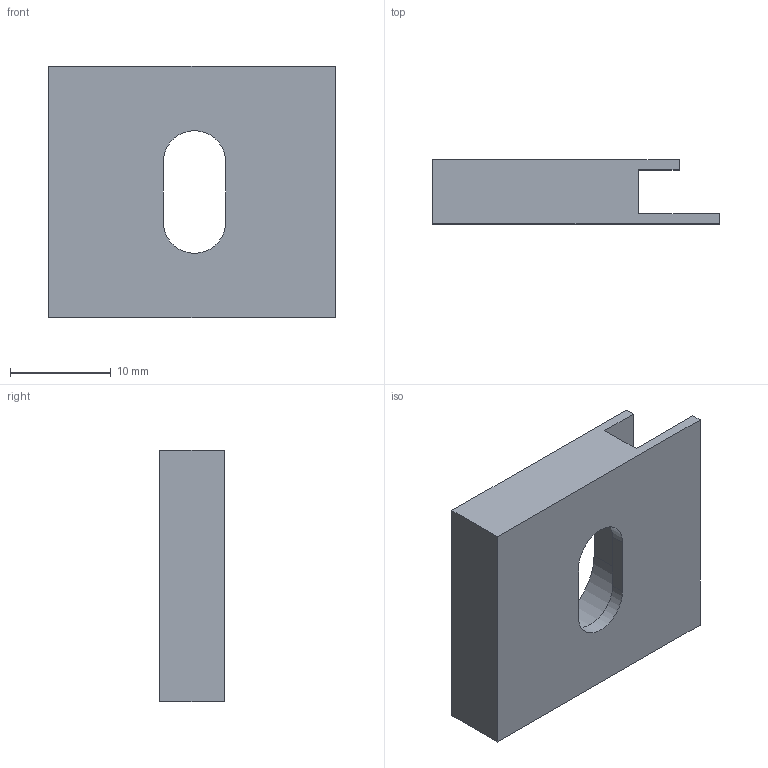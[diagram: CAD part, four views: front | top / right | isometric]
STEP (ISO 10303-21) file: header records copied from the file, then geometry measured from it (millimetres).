
FILE_DESCRIPTION((''),'2;1');
FILE_NAME('EAP-OT25_U-25','2023-06-06T16:37:45',('R&D'),(''),'CREO PARAMETRIC BY PTC INC, 2021063','CREO PARAMETRIC BY PTC INC, 2021063','');
FILE_SCHEMA(('CONFIG_CONTROL_DESIGN'));
Length unit declared in the file: millimetre
Products named in the file (1): EAP-OT25_U-25
Bounding box: 28.5 x 6.4 x 25 mm (x, y, z)
Volume: 2680.6 mm3; surface area: 2373.6 mm2
Topology: 1 solids, 1 shells, 19 faces, 48 edges, 32 vertices
Faces by surface type: plane 15, cylinder 4
Entity records: 612 total; most frequent: CARTESIAN_POINT 99, ORIENTED_EDGE 96, DIRECTION 94, EDGE_CURVE 48, VECTOR 40, LINE 40, VERTEX_POINT 32, AXIS2_PLACEMENT_3D 27
